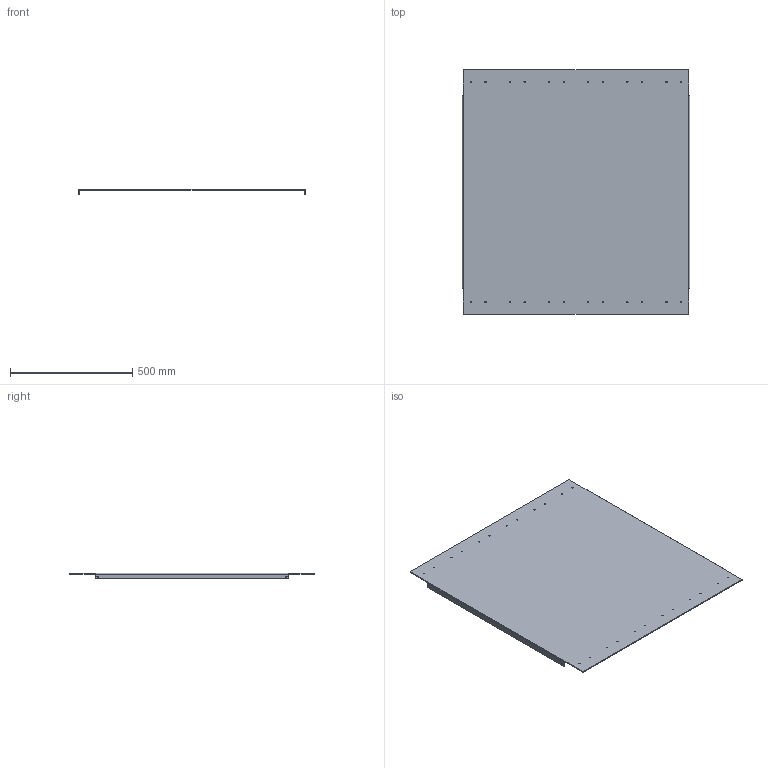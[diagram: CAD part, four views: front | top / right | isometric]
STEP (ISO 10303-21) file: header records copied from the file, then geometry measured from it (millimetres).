
FILE_DESCRIPTION(('HOOPS Exchange Step'),'2;1');
FILE_NAME('/private/var/mobile/Containers/Data/Application/E4481369-A8C6-45C6-A958-B1853E49479D/tmp/export/temp_export','2021-04-12T21:08:03+00:00',('mobile'),('Shapr3D Limited'),'HOOPS Exchange 2020.2','Shapr3D','Authorized');
FILE_SCHEMA( ('AP203_CONFIGURATION_CONTROLLED_3D_DESIGN_OF_MECHANICAL_PARTS_AND_ASSEMBLIES_MIM_LF') );
Length unit declared in the file: millimetre
Products named in the file (2): 0; /private/var/mobile/Containers/Data/Application/E4481369-A8C6-45C6-A958-B1853E49479D/tmp/87BCDE9A-EF2B-4669-B2E1-7F97E216B62C.tmp
Assembly tree (1 placements, depth 2):
  /private/var/mobile/Containers/Data/Application/E4481369-A8C6-45C6-A958-B1853E49479D/tmp/87BCDE9A-EF2B-4669-B2E1-7F97E216B62C.tmp
    0
Bounding box: 930 x 1000 x 24 mm (x, y, z)
Volume: 3827856.3 mm3; surface area: 1931483.5 mm2
Topology: 1 solids, 1 shells, 58 faces, 192 edges, 136 vertices
Faces by surface type: cylinder 40, plane 18
Full cylindrical faces by diameter (mm): 5.2 x28
Entity records: 2359 total; most frequent: DIRECTION 426, CARTESIAN_POINT 389, ORIENTED_EDGE 384, EDGE_CURVE 192, AXIS2_PLACEMENT_3D 173, VERTEX_POINT 136, EDGE_LOOP 114, FACE_BOUND 114
